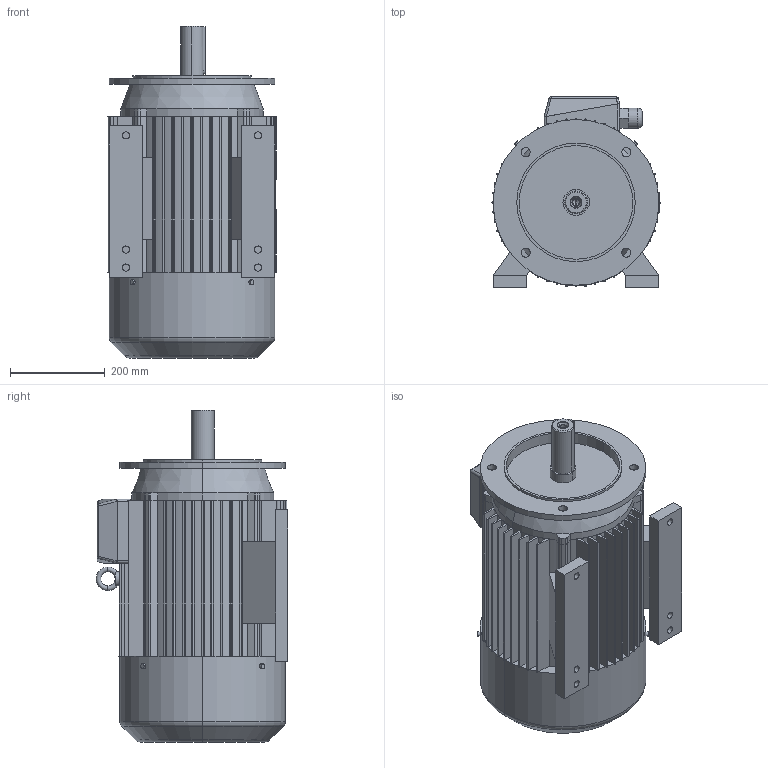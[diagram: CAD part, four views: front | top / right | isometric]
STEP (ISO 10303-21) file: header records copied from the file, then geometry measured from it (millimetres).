
FILE_DESCRIPTION (( 'STEP AP203' ), '1' );
FILE_NAME ('SLg 180M,L-B35.STEP', '2010-02-09T12:47:41', ( 'INDUKTA' ), ( 'CANTONI MOTOR' ), 'SwSTEP 2.0', 'SolidWorks 2003064', '' );
FILE_SCHEMA (( 'CONFIG_CONTROL_DESIGN' ));
Length unit declared in the file: millimetre
Products named in the file (1): SLg 180M,L-B35
Bounding box: 354.99 x 405 x 701 mm (x, y, z)
Volume: 50960121 mm3; surface area: 2161082.6 mm2
Topology: 14 solids, 14 shells, 537 faces, 1419 edges, 917 vertices
Faces by surface type: plane 266, cylinder 195, bspline 42, torus 16, cone 14, sphere 4
Entity records: 19766 total; most frequent: CARTESIAN_POINT 6365, ORIENTED_EDGE 2826, DIRECTION 2720, EDGE_CURVE 1413, AXIS2_PLACEMENT_3D 920, VERTEX_POINT 917, LINE 880, VECTOR 880
